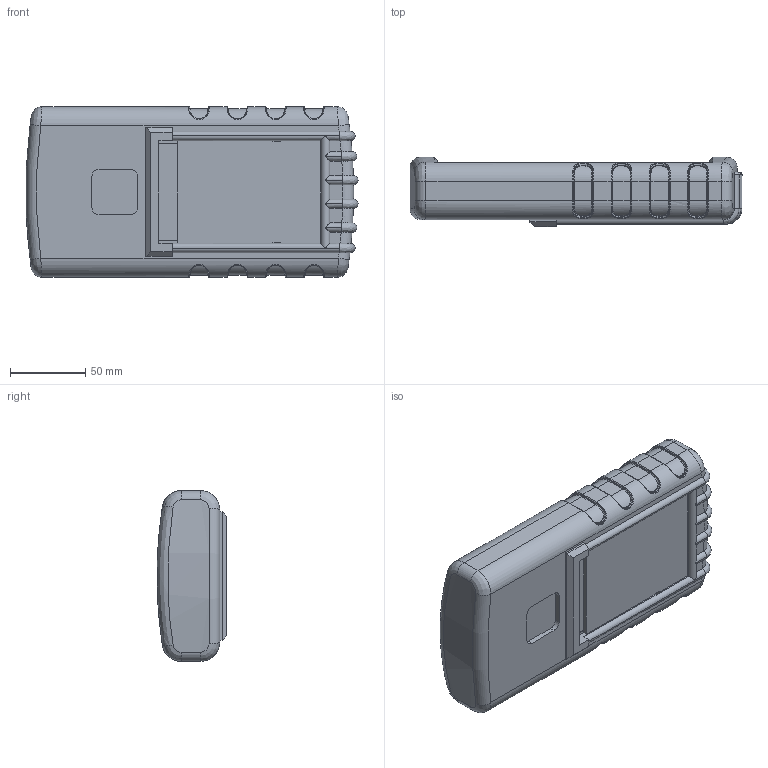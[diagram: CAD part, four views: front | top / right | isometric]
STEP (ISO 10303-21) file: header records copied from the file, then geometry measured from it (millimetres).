
FILE_DESCRIPTION (( 'STEP AP214' ), '1' );
FILE_NAME ('100-42-NO-R.STEP', '2020-11-20T22:36:12', ( 'Rudy' ), ( '' ), 'SwSTEP 2.0', 'SolidWorks 2016', '' );
FILE_SCHEMA (( 'AUTOMOTIVE_DESIGN' ));
Length unit declared in the file: inch
Products named in the file (5): 100 RBT; 100-NO- PCB; 100-04-recessed Top; 100-02 BOT-NO BAT; 100-42-NO-R
Assembly tree (4 placements, depth 2):
  100-42-NO-R
    100-02 BOT-NO BAT
    100-04-recessed Top
    100-NO- PCB
    100 RBT
Bounding box: 220.37 x 46.01 x 113.28 mm (x, y, z)
Volume: 335286.5 mm3; surface area: 245435.2 mm2
Topology: 4 solids, 4 shells, 1000 faces, 2555 edges, 1568 vertices
Faces by surface type: plane 359, cylinder 347, bspline 148, torus 102, cone 40, sphere 4
Entity records: 41053 total; most frequent: CARTESIAN_POINT 18066, ORIENTED_EDGE 5038, DIRECTION 4473, EDGE_CURVE 2519, AXIS2_PLACEMENT_3D 1639, VERTEX_POINT 1560, LINE 1195, VECTOR 1195
